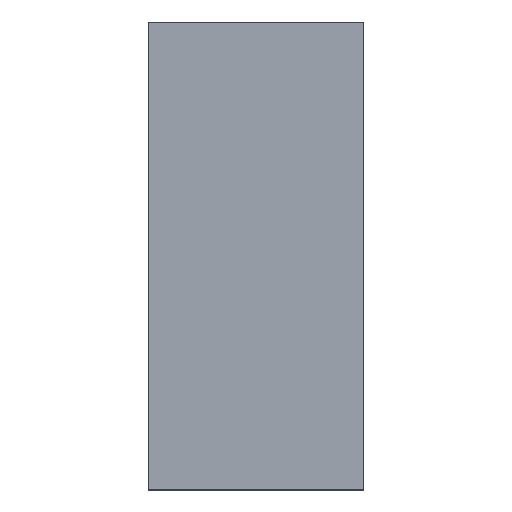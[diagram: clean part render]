
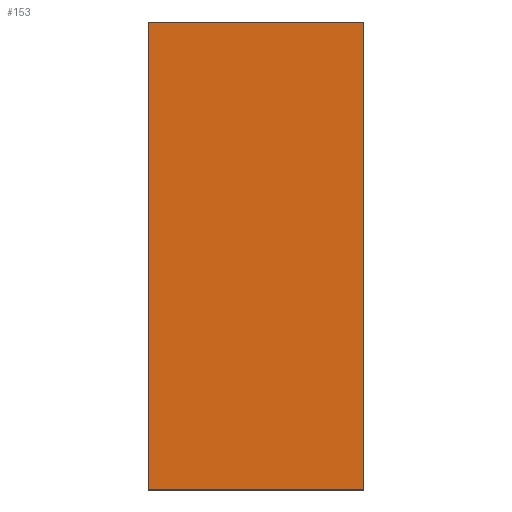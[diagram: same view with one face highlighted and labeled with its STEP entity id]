
A CAD part, top view. The second image highlights one B-rep face of the part: STEP entity #153.
In plain terms, the highlighted planar face has unit normal (0, 0, 1).
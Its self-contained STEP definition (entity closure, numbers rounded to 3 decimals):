
#24 = VERTEX_POINT('',#25);
#25 = CARTESIAN_POINT('',(0.,0.,4.45));
#40 = VERTEX_POINT('',#41);
#41 = CARTESIAN_POINT('',(0.,78.,4.45));
#47 = EDGE_CURVE('',#24,#40,#48,.T.);
#48 = LINE('',#49,#50);
#49 = CARTESIAN_POINT('',(0.,0.,4.45));
#50 = VECTOR('',#51,1.);
#51 = DIRECTION('',(0.,1.,0.));
#64 = VERTEX_POINT('',#65);
#65 = CARTESIAN_POINT('',(36.,0.,4.45));
#80 = VERTEX_POINT('',#81);
#81 = CARTESIAN_POINT('',(36.,78.,4.45));
#87 = EDGE_CURVE('',#64,#80,#88,.T.);
#88 = LINE('',#89,#90);
#89 = CARTESIAN_POINT('',(36.,0.,4.45));
#90 = VECTOR('',#91,1.);
#91 = DIRECTION('',(0.,1.,0.));
#108 = EDGE_CURVE('',#24,#64,#109,.T.);
#109 = LINE('',#110,#111);
#110 = CARTESIAN_POINT('',(0.,0.,4.45));
#111 = VECTOR('',#112,1.);
#112 = DIRECTION('',(1.,0.,0.));
#130 = EDGE_CURVE('',#40,#80,#131,.T.);
#131 = LINE('',#132,#133);
#132 = CARTESIAN_POINT('',(0.,78.,4.45));
#133 = VECTOR('',#134,1.);
#134 = DIRECTION('',(1.,0.,0.));
#153 = ADVANCED_FACE('',(#154),#160,.T.);
#154 = FACE_BOUND('',#155,.T.);
#155 = EDGE_LOOP('',(#156,#157,#158,#159));
#156 = ORIENTED_EDGE('',*,*,#47,.F.);
#157 = ORIENTED_EDGE('',*,*,#108,.T.);
#158 = ORIENTED_EDGE('',*,*,#87,.T.);
#159 = ORIENTED_EDGE('',*,*,#130,.F.);
#160 = PLANE('',#161);
#161 = AXIS2_PLACEMENT_3D('',#162,#163,#164);
#162 = CARTESIAN_POINT('',(0.,0.,4.45));
#163 = DIRECTION('',(0.,0.,1.));
#164 = DIRECTION('',(1.,0.,0.));
